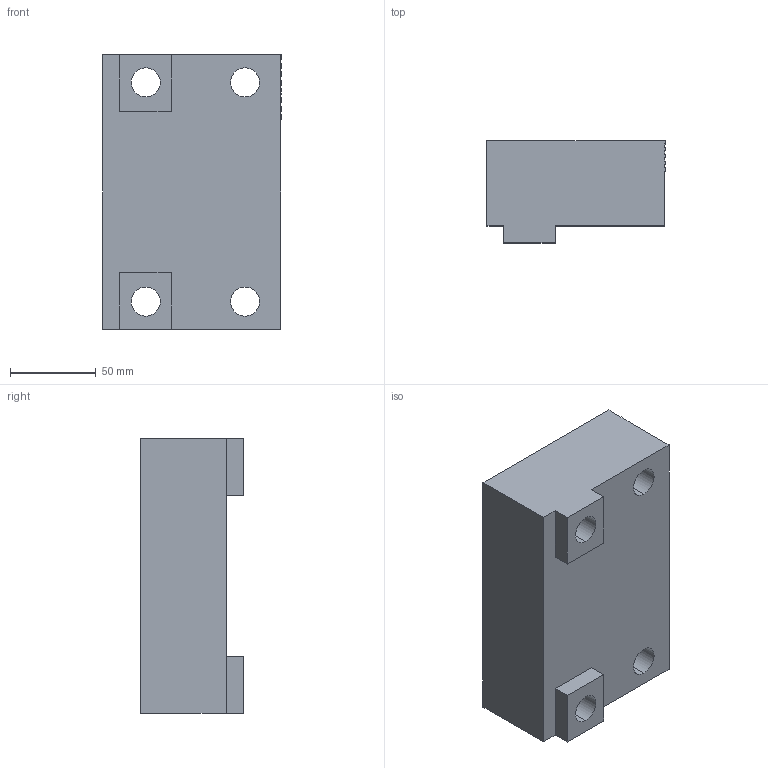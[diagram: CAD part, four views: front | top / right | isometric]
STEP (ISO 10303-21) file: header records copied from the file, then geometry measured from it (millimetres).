
FILE_DESCRIPTION (( 'STEP AP203' ), '1' );
FILE_NAME ('6921704005740.STEP', '2008-12-15T08:59:15', ( ' ' ), ( '' ), 'SwSTEP 2.0', 'SolidWorks 2008', '' );
FILE_SCHEMA (( 'CONFIG_CONTROL_DESIGN' ));
Length unit declared in the file: millimetre
Products named in the file (2): 6921704005740_Kundenmodell; 6921704005740
Assembly tree (1 placements, depth 2):
  6921704005740
    6921704005740_Kundenmodell
Bounding box: 104 x 59.8 x 160.4 mm (x, y, z)
Volume: 777713.6 mm3; surface area: 74161.2 mm2
Topology: 1 solids, 1 shells, 191 faces, 489 edges, 326 vertices
Faces by surface type: plane 175, cylinder 16
Entity records: 5907 total; most frequent: CARTESIAN_POINT 1010, ORIENTED_EDGE 978, DIRECTION 911, EDGE_CURVE 489, VECTOR 457, LINE 457, VERTEX_POINT 326, AXIS2_PLACEMENT_3D 227
